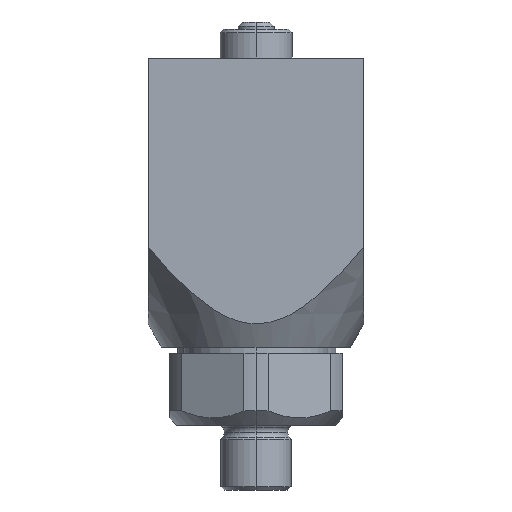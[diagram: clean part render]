
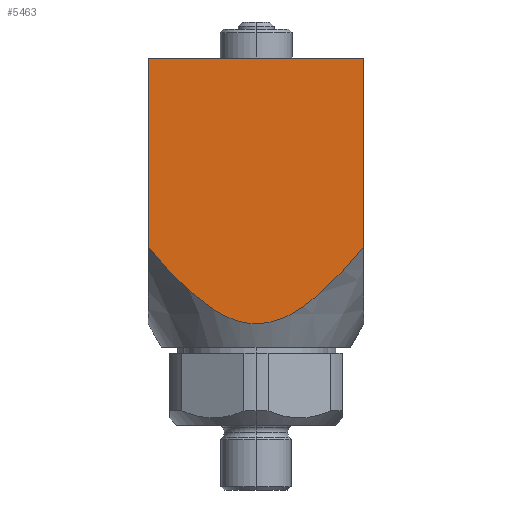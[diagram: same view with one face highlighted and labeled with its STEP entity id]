
A CAD part, left-side view. The second image highlights one B-rep face of the part: STEP entity #5463.
In plain terms, the highlighted planar face has unit normal (-1, 0, 0).
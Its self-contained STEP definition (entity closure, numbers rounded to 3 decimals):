
#435 = EDGE_CURVE ( 'NONE', #3829, #9287, #9879, .T. ) ;
#741 = DIRECTION ( 'NONE',  ( 0., 0., 1. ) ) ;
#791 = CARTESIAN_POINT ( 'NONE',  ( -15., 5.283, 15.63 ) ) ;
#828 = CARTESIAN_POINT ( 'NONE',  ( -15., -7.253, 16.951 ) ) ;
#1254 = B_SPLINE_CURVE_WITH_KNOTS ( 'NONE', 3,
 ( #6484, #5675, #8086, #3319, #8882, #4141, #9699, #4923, #10490, #5706, #791, #6525, #1652, #7328, #2505, #8121, #3353, #8923, #4174, #9730, #4957, #10526, #5746, #828, #6561, #1685, #7358, #2540, #8150, #3389 ),
 .UNSPECIFIED., .F., .F.,
 ( 4, 2, 2, 2, 2, 2, 2, 2, 2, 2, 2, 2, 2, 2, 4 ),
 ( 0., 0.005, 0.009, 0.011, 0.012, 0.014, 0.017, 0.019, 0.021, 0.022, 0.024, 0.026, 0.028, 0.033, 0.038 ),
 .UNSPECIFIED. ) ;
#1530 = VECTOR ( 'NONE', #741, 1000. ) ;
#1652 = CARTESIAN_POINT ( 'NONE',  ( -15., 3.115, 14.613 ) ) ;
#1685 = CARTESIAN_POINT ( 'NONE',  ( -15., -9.694, 18.99 ) ) ;
#1715 = VECTOR ( 'NONE', #2160, 1000. ) ;
#1957 = EDGE_LOOP ( 'NONE', ( #9504, #9980, #5246, #2364 ) ) ;
#2160 = DIRECTION ( 'NONE',  ( 0., 0., -1. ) ) ;
#2243 = LINE ( 'NONE', #6202, #1715 ) ;
#2364 = ORIENTED_EDGE ( 'NONE', *, *, #5148, .T. ) ;
#2505 = CARTESIAN_POINT ( 'NONE',  ( -15., 0.804, 14.091 ) ) ;
#2540 = CARTESIAN_POINT ( 'NONE',  ( -15., -12.966, 22.421 ) ) ;
#3319 = CARTESIAN_POINT ( 'NONE',  ( -15., 10.818, 20.11 ) ) ;
#3353 = CARTESIAN_POINT ( 'NONE',  ( -15., -1.587, 14.203 ) ) ;
#3389 = CARTESIAN_POINT ( 'NONE',  ( -15., -15., 24.852 ) ) ;
#3460 = CARTESIAN_POINT ( 'NONE',  ( -15., 15., 51. ) ) ;
#3543 = VECTOR ( 'NONE', #9383, 1000. ) ;
#3829 = VERTEX_POINT ( 'NONE', #5129 ) ;
#4141 = CARTESIAN_POINT ( 'NONE',  ( -15., 8.194, 17.711 ) ) ;
#4174 = CARTESIAN_POINT ( 'NONE',  ( -15., -3.112, 14.637 ) ) ;
#4358 = CARTESIAN_POINT ( 'NONE',  ( -15., 15., 24.853 ) ) ;
#4717 = CARTESIAN_POINT ( 'NONE',  ( -15., 15., 51. ) ) ;
#4923 = CARTESIAN_POINT ( 'NONE',  ( -15., 7.26, 16.97 ) ) ;
#4957 = CARTESIAN_POINT ( 'NONE',  ( -15., -4.221, 15.093 ) ) ;
#5040 = DIRECTION ( 'NONE',  ( 0., -1., 0. ) ) ;
#5129 = CARTESIAN_POINT ( 'NONE',  ( -15., -15., 51. ) ) ;
#5148 = EDGE_CURVE ( 'NONE', #9287, #7397, #2243, .T. ) ;
#5246 = ORIENTED_EDGE ( 'NONE', *, *, #435, .T. ) ;
#5463 = ADVANCED_FACE ( 'NONE', ( #5656 ), #8209, .T. ) ;
#5656 = FACE_OUTER_BOUND ( 'NONE', #1957, .T. ) ;
#5675 = CARTESIAN_POINT ( 'NONE',  ( -15., 13.998, 23.625 ) ) ;
#5706 = CARTESIAN_POINT ( 'NONE',  ( -15., 5.959, 16.047 ) ) ;
#5746 = CARTESIAN_POINT ( 'NONE',  ( -15., -5.954, 16.044 ) ) ;
#6123 = LINE ( 'NONE', #10435, #1530 ) ;
#6202 = CARTESIAN_POINT ( 'NONE',  ( -15., 15., 51. ) ) ;
#6298 = AXIS2_PLACEMENT_3D ( 'NONE', #3460, #9820, #5040 ) ;
#6484 = CARTESIAN_POINT ( 'NONE',  ( -15., 15., 24.853 ) ) ;
#6525 = CARTESIAN_POINT ( 'NONE',  ( -15., 3.865, 14.914 ) ) ;
#6561 = CARTESIAN_POINT ( 'NONE',  ( -15., -7.882, 17.445 ) ) ;
#7328 = CARTESIAN_POINT ( 'NONE',  ( -15., 1.587, 14.203 ) ) ;
#7358 = CARTESIAN_POINT ( 'NONE',  ( -15., -10.814, 20.105 ) ) ;
#7397 = VERTEX_POINT ( 'NONE', #4358 ) ;
#8086 = CARTESIAN_POINT ( 'NONE',  ( -15., 12.968, 22.423 ) ) ;
#8121 = CARTESIAN_POINT ( 'NONE',  ( -15., -0.805, 14.091 ) ) ;
#8150 = CARTESIAN_POINT ( 'NONE',  ( -15., -13.997, 23.624 ) ) ;
#8209 = PLANE ( 'NONE',  #6298 ) ;
#8239 = EDGE_CURVE ( 'NONE', #7397, #8337, #1254, .T. ) ;
#8337 = VERTEX_POINT ( 'NONE', #9089 ) ;
#8882 = CARTESIAN_POINT ( 'NONE',  ( -15., 9.7, 18.996 ) ) ;
#8923 = CARTESIAN_POINT ( 'NONE',  ( -15., -2.734, 14.511 ) ) ;
#9089 = CARTESIAN_POINT ( 'NONE',  ( -15., -15., 24.852 ) ) ;
#9287 = VERTEX_POINT ( 'NONE', #4717 ) ;
#9345 = CARTESIAN_POINT ( 'NONE',  ( -15., 15., 51. ) ) ;
#9383 = DIRECTION ( 'NONE',  ( 0., 1., 0. ) ) ;
#9444 = EDGE_CURVE ( 'NONE', #8337, #3829, #6123, .T. ) ;
#9504 = ORIENTED_EDGE ( 'NONE', *, *, #8239, .T. ) ;
#9699 = CARTESIAN_POINT ( 'NONE',  ( -15., 7.887, 17.46 ) ) ;
#9730 = CARTESIAN_POINT ( 'NONE',  ( -15., -3.858, 14.929 ) ) ;
#9820 = DIRECTION ( 'NONE',  ( -1., 0., 0. ) ) ;
#9879 = LINE ( 'NONE', #9345, #3543 ) ;
#9980 = ORIENTED_EDGE ( 'NONE', *, *, #9444, .T. ) ;
#10435 = CARTESIAN_POINT ( 'NONE',  ( -15., -15., 51. ) ) ;
#10490 = CARTESIAN_POINT ( 'NONE',  ( -15., 6.939, 16.731 ) ) ;
#10526 = CARTESIAN_POINT ( 'NONE',  ( -15., -5.281, 15.629 ) ) ;
